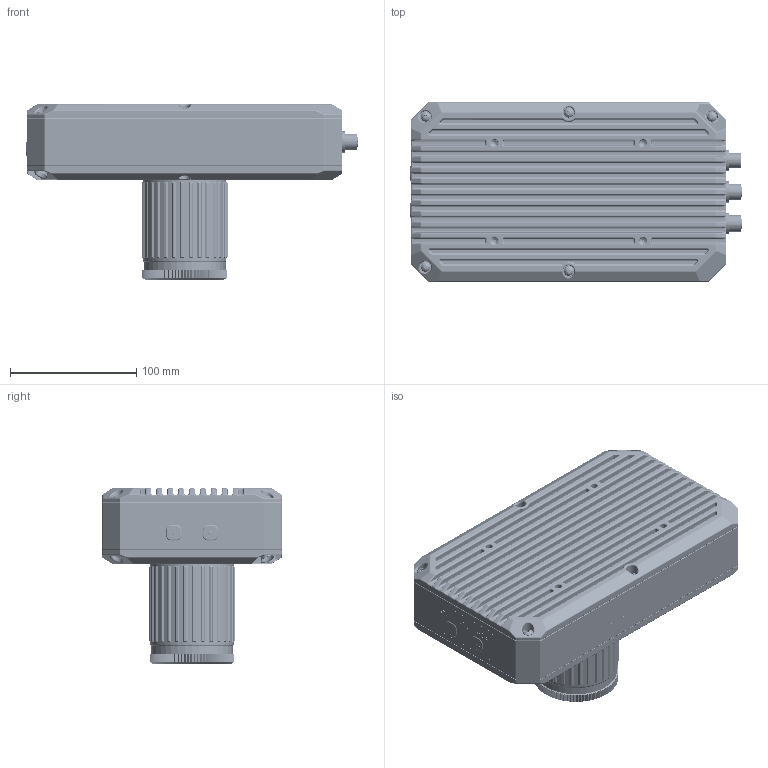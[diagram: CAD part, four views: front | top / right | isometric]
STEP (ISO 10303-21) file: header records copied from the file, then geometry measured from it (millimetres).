
FILE_DESCRIPTION((''),'2;1');
FILE_NAME('R-8000_ASM','2023-12-25T14:36:23',('SZ4067'),(''),'CREO PARAMETRIC BY PTC INC, 2020354','CREO PARAMETRIC BY PTC INC, 2020354','');
FILE_SCHEMA(('AUTOMOTIVE_DESIGN { 1 0 10303 214 1 1 1 1 }'));
Products named in the file (127): R-8000-M01; R-8000-M03; R-8000-M04; M40001; R-8120H-M02; R-8000-M16; R-8000-M02; M3X000; M12-B-S8-M12X1; M12-O; M12X1-2-4; M12-B-S8-M12X1_ASM; M12-B-S17-M12X1; M12-B-S17-M12X1_ASM; M12-B-P12-M12X1; M12-B-P12-M12X1_ASM; R-8000-M09; R-8000-M08; R-8000-M10; R-8000-M12; R-8000-M06; 3120-0021; 1000; R-8000-M17; R-8000-M14; R-8000-M05; FA1210A-505_30_AF0_1; FA1210A-506_6_AF0_1; FA1210A-509_17_AF0_1; FA1210A-507_19_AF0_1; FA1210A-510_31_AF0_1; FA1210A-501_5_AF0_1_1; FA1210A-501_5_AF0_1_2; FA1210A-501_5_AF0_1_ASM; FA1210A-305_1_AF0_1; HC1605A-513_1_AF0_1; FA1210A-304_2_AF0_1; FA1210A-303_3_AF0_1; HC1605A-512_1_AF0_1; FA1210A-302_1_AF0_1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
Assembly tree (155 placements, depth 10):
  R-8000_ASM
    R-8000-M01
    R-8000-M03
    R-8000-M04
    M40001  x12
    R-8120H-M02
    R-8000-M16
    R-8000-M02
    M3X000  x5
    M12-B-S8-M12X1_ASM
      M12-B-S8-M12X1
      M12-O
      M12X1-2-4
    M12-B-S17-M12X1_ASM
      M12-B-S17-M12X1
      M12-O
      M12X1-2-4
    M12-B-P12-M12X1_ASM
      M12-B-P12-M12X1
      M12-O
      M12X1-2-4
    R-8000-M09
    R-8000-M08  x2
    R-8000-M10  x2
    R-8000-M12  x3
    R-8000-M06
    3120-0021  x5
    1000  x2
    _USB0001_ASM
      R-8000-M17
      R-8000-M14
      R-8000-M05
      FA1210A_ASM
        FA1210A-200_ASM_1_ASM
          FA1210A-200_ASM_97_AF0_ASM_1_ASM
            FA1210A-505_30_AF0_1
            FA1210A-506_6_AF0_1
            FA1210A-509_17_AF0_1
            FA1210A-507_19_AF0_1
            FA1210A-510_31_AF0_1
            FA1210A-201_ASM_5_AF0_ASM_1_ASM
              FA1210A-501_5_AF0_1_ASM
                FA1210A-501_5_AF0_1_1
                FA1210A-501_5_AF0_1_2
              FA1210A-305_1_AF0_1
              HC1605A-513_1_AF0_1
              FA1210A-304_2_AF0_1
              FA1210A-303_3_AF0_1
              HC1605A-512_1_AF0_1
              FA1210A-302_1_AF0_1
              FA1210A-301_1_AF0_1
              FA1210A-511_2_AF0_1
            M14402501_1_AF0_1
            M14402501_1_AF1_1
            M14402502_1_AF0_1
            M14402502_1_AF1_1
            M14402502_1_AF2_1
            M14352001_1_AF0_1
            M14352001_1_AF1_1
            M14352001_1_AF2_1
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Bounding box: 262.7 x 142 x 138.8 mm (x, y, z)
Volume: 675819 mm3; surface area: 457421.2 mm2
Topology: 96 solids, 96 shells, 18184 faces, 46316 edges, 28725 vertices
Faces by surface type: bspline 10480, plane 4419, cylinder 2196, cone 712, torus 276, sphere 96, extrusion 5
Entity records: 765325 total; most frequent: CARTESIAN_POINT 412105, ORIENTED_EDGE 61098, DIRECTION 32275, PRESENTATION_STYLE_ASSIGNMENT 30596, STYLED_ITEM 30576, EDGE_CURVE 30549, CURVE_STYLE 27237, VERTEX_POINT 19169
